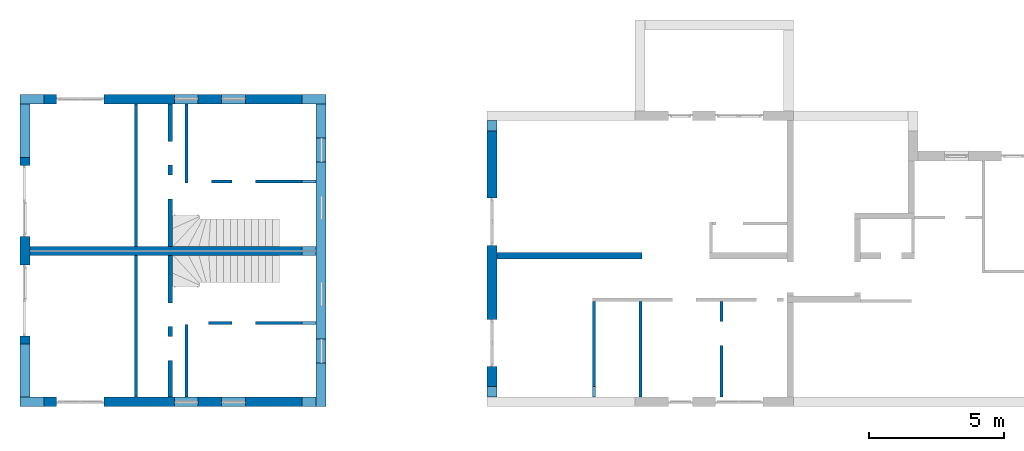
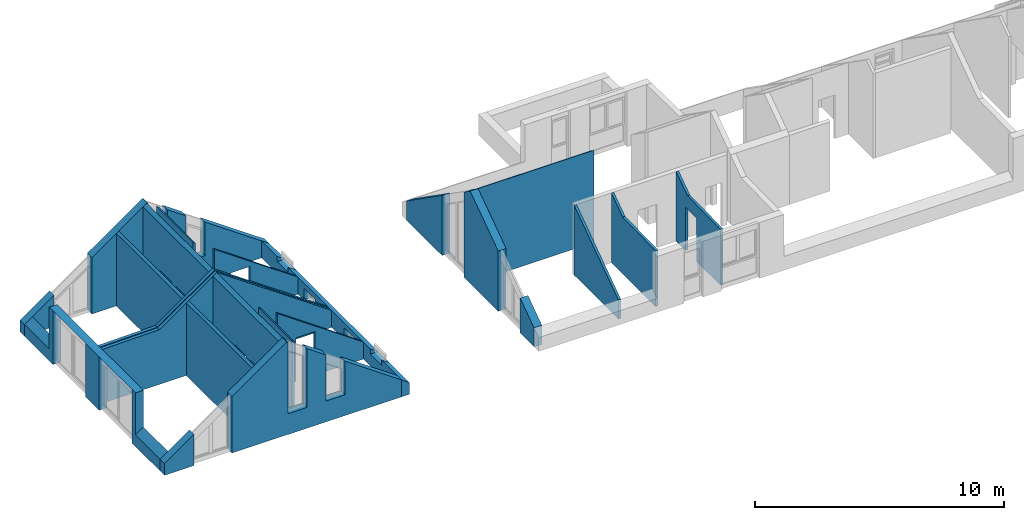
# One storey, part 1 of 23: 19 walls, 21 openings.
"""IFC2X3 building model written with IfcOpenShell, lengths in millimetres."""

from ifc_helpers import new_model, entity, si_unit, converted_unit, frame, frame_2d, origin, origin_with_axes, place, context, subcontext, project, spatial, polyline, rectangle, outline, extrude, clip, halfspace, bounded_halfspace, material, layer, layer_set, layer_usage, element, save


model = new_model("IFC2X3")

# Units and contexts
model_context = context("Model", 3, precision=1e-05, world=origin())
body_context = subcontext(model_context, "Body", "Model", "MODEL_VIEW")
ifc_project = project(units=[si_unit("LENGTHUNIT", "METRE", prefix="MILLI"), converted_unit("PLANEANGLEUNIT", "DEGREE", entity("IfcPlaneAngleMeasure", 0.0174532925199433), si_unit("PLANEANGLEUNIT", "RADIAN"), dimensions=[0, 0, 0, 0, 0, 0, 0]), si_unit("AREAUNIT", "SQUARE_METRE"), si_unit("VOLUMEUNIT", "CUBIC_METRE")], contexts=[model_context])

# Building, storey
building_placement = place(None, origin())
building = spatial("IfcBuilding", under=ifc_project, at=building_placement, Name="Gebäude", CompositionType="ELEMENT")
storey_placement = place(building_placement, frame((0.0, 0.0, 5580.0), z_axis=(0.0, 0.0, 1.0), x_axis=(1.0, 0.0, 0.0)))
storey = spatial("IfcBuildingStorey", under=building, at=storey_placement, Name="DG.- Grundriss", CompositionType="ELEMENT", Elevation=5580.0)

# Wall, openings
ifc_material_1 = material(Name="Poroton")
ifc_layer_1 = layer(ifc_material_1, 365.0000000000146)
ifc_layer_set_1 = layer_set([ifc_layer_1])
ifc_layer_usage_1 = layer_usage(ifc_layer_set_1, "AXIS2", "POSITIVE", 0.0)
wall_1_placement = place(storey_placement, frame((130992.7928067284, 125274.8877324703, 0.0), z_axis=(0.0, 0.0, 1.0), x_axis=(1.0, -2.749253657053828e-11, 0.0)))
wall_1 = element("IfcWallStandardCase", 1, at=wall_1_placement, inside=storey, material=ifc_layer_usage_1, Name="<Unnamed Element>", context=body_context, shape_type="Clipping", body=[
    clip(clip(extrude(rectangle(XDim=10999.99999999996, YDim=365.0000000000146, at=frame_2d((5499.999999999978, 182.5000000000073), x_axis=(1.0, 0.0))), origin_with_axes(), (0.0, 0.0, 1.0), 4558.929335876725), bounded_halfspace(frame((5682.499999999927, -3.022829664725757e-12, 4558.929335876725), z_axis=(-0.5735764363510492, -1.576907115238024e-11, -0.8191520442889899), x_axis=(0.8191520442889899, 4.656618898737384e-16, -0.573576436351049)), True, origin(), polyline([(5682.499999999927, -3.022829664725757e-12), (10999.99999999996, 0.0), (10999.99999998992, 365.0000000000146), (5682.499999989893, 365.0000000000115), (5682.499999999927, -3.022829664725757e-12)]))), bounded_halfspace(frame((-1.003477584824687e-08, 365.0000000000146, 580.0000000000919), z_axis=(0.5735764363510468, 1.576907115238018e-11, -0.8191520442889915), x_axis=(2.749253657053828e-11, -1.0, 0.0)), True, origin(), polyline([(-1.003477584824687e-08, 365.0000000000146), (0.0, 0.0), (5682.499999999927, -3.022829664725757e-12), (5682.499999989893, 365.0000000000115), (-1.003477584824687e-08, 365.0000000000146)]))),
])
opening_1_placement = place(wall_1_placement, frame((1364.999999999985, -7.494236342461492e-12, 0.0), z_axis=(0.0, 1.0, 0.0), x_axis=(0.0, 0.0, 1.0)))
element("IfcOpeningElement", 2, at=opening_1_placement, cuts=wall_1, Name="Fensteröffnung", ObjectType="Opening", context=body_context, shape_type="SweptSolid", body=[
    extrude(outline(polyline([(1535.783289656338, 0.0), (0.0, 0.0), (0.0, 1760.0), (2768.148556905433, 1760.0), (1535.783289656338, 0.0)])), origin_with_axes(), (0.0, 0.0, 1.0), 365.0000000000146),
])
opening_2_placement = place(wall_1_placement, frame((7489.999999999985, -3.477907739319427e-11, 1020.0), z_axis=(0.0, 1.0, 0.0), x_axis=(0.0, 0.0, 1.0)))
element("IfcOpeningElement", 3, at=opening_2_placement, cuts=wall_1, Name="Fensteröffnung", ObjectType="Opening", context=body_context, shape_type="SweptSolid", body=[
    extrude(outline(polyline([(2273.304210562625, 0.0), (0.0, 0.0), (0.0, 885.0), (1653.620539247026, 885.0), (2273.304210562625, 0.0)])), origin_with_axes(), (0.0, 0.0, 1.0), 365.0000000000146),
])
opening_3_placement = place(wall_1_placement, frame((5739.999999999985, -1.658918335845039e-11, 1020.0), z_axis=(0.0, 1.0, 0.0), x_axis=(0.0, 0.0, 1.0)))
element("IfcOpeningElement", 4, at=opening_3_placement, cuts=wall_1, Name="Fensteröffnung", ObjectType="Opening", context=body_context, shape_type="SweptSolid", body=[
    extrude(outline(polyline([(3498.667402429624, 0.0), (0.0, 0.0), (0.0, 885.0), (2878.983731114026, 885.0), (3498.667402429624, 0.0)])), origin_with_axes(), (0.0, 0.0, 1.0), 365.0),
])

ifc_material_2 = material(Name="Poroton")
ifc_layer_2 = layer(ifc_material_2, 365.0000000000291)
ifc_layer_set_2 = layer_set([ifc_layer_2])
ifc_layer_usage_2 = layer_usage(ifc_layer_set_2, "AXIS2", "POSITIVE", 0.0)
wall_2_placement = place(storey_placement, frame((142357.7928067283, 136889.8877324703, 0.0), z_axis=(0.0, 0.0, 1.0), x_axis=(-1.0, 0.0, 0.0)))
wall_2 = element("IfcWallStandardCase", 5, at=wall_2_placement, inside=storey, material=ifc_layer_usage_2, Name="<Unnamed Element>", context=body_context, shape_type="Clipping", body=[
    clip(clip(extrude(rectangle(XDim=11365.00000000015, YDim=365.0000000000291, at=frame_2d((5682.500000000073, 182.5000000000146), x_axis=(1.0, 0.0))), origin_with_axes(), (0.0, 0.0, 1.0), 4558.92933587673), bounded_halfspace(frame((5682.500000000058, 365.0000000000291, 4558.92933587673), z_axis=(0.5735764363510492, 0.0, -0.8191520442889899), x_axis=(-0.8191520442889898, 0.0, -0.5735764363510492)), True, origin(), polyline([(5682.500000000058, 365.0000000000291), (0.0, 365.0000000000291), (0.0, 0.0), (5682.500000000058, 0.0), (5682.500000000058, 365.0000000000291)]))), bounded_halfspace(frame((5682.500000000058, 365.0000000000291, 4558.92933587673), z_axis=(-0.5735764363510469, 0.0, -0.8191520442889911), x_axis=(0.0, -1.0, 0.0)), True, origin(), polyline([(5682.500000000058, 365.0000000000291), (5682.500000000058, 0.0), (11365.00000000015, 0.0), (11365.00000000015, 365.0000000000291), (5682.500000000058, 365.0000000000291)]))),
])
opening_4_placement = place(wall_2_placement, frame((8240.0, 0.0, 0.0), z_axis=(0.0, 1.0, 0.0), x_axis=(0.0, 0.0, 1.0)))
element("IfcOpeningElement", 6, at=opening_4_placement, cuts=wall_2, Name="Fensteröffnung", ObjectType="Opening", context=body_context, shape_type="SweptSolid", body=[
    extrude(outline(polyline([(0.0, 1760.0), (0.0, 0.0), (2768.148556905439, 0.0), (1535.783289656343, 1760.0), (0.0, 1760.0)])), origin_with_axes(), (0.0, 0.0, 1.0), 365.0000000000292),
])
opening_5_placement = place(wall_2_placement, frame((2990.0, 0.0, 1020.0), z_axis=(0.0, 1.0, 0.0), x_axis=(0.0, 0.0, 1.0)))
element("IfcOpeningElement", 7, at=opening_5_placement, cuts=wall_2, Name="Fensteröffnung", ObjectType="Opening", context=body_context, shape_type="SweptSolid", body=[
    extrude(outline(polyline([(0.0, 885.0), (0.0, 0.0), (1653.620539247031, 0.0), (2273.30421056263, 885.0), (0.0, 885.0)])), origin_with_axes(), (0.0, 0.0, 1.0), 365.0000000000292),
])
opening_6_placement = place(wall_2_placement, frame((4740.0, 0.0, 1020.0), z_axis=(0.0, 1.0, 0.0), x_axis=(0.0, 0.0, 1.0)))
element("IfcOpeningElement", 8, at=opening_6_placement, cuts=wall_2, Name="Fensteröffnung", ObjectType="Opening", context=body_context, shape_type="SweptSolid", body=[
    extrude(outline(polyline([(0.0, 885.0), (0.0, 0.0), (2878.983731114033, 0.0), (3498.667402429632, 885.0), (0.0, 885.0)])), origin_with_axes(), (0.0, 0.0, 1.0), 365.0000000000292),
])

ifc_material_3 = material(Name="Poroton")
ifc_layer_3 = layer(ifc_material_3, 365.0000000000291)
ifc_layer_set_3 = layer_set([ifc_layer_3])
ifc_layer_usage_3 = layer_usage(ifc_layer_set_3, "AXIS2", "POSITIVE", 0.0)
wall_3_placement = place(storey_placement, frame((142357.7928067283, 125274.8877321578, 0.0), z_axis=(0.0, 0.0, 1.0), x_axis=(0.0, 1.0, 0.0)))
wall_3 = element("IfcWallStandardCase", 9, at=wall_3_placement, inside=storey, material=ifc_layer_usage_3, Name="<Unnamed Element>", context=body_context, shape_type="Clipping", body=[
    clip(extrude(rectangle(XDim=11250.00000031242, YDim=365.0000000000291, at=frame_2d((5625.000000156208, 182.5000000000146), x_axis=(1.0, 0.0))), origin_with_axes(), (0.0, 0.0, 1.0), 835.5757514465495), halfspace(frame((11250.00000031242, 365.0000000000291, 835.5757514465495), z_axis=(3.642746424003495e-16, 0.5735764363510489, -0.81915204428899), x_axis=(-1.0, 0.0, -4.850638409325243e-16)), True)),
])
opening_7_placement = place(wall_3_placement, frame((3750.0, 0.0, 0.0), z_axis=(0.0, 1.0, 0.0), x_axis=(0.0, 0.0, 1.0)))
element("IfcOpeningElement", 10, at=opening_7_placement, cuts=wall_3, Name="Fensteröffnung", ObjectType="Opening", context=body_context, shape_type="SweptSolid", body=[
    extrude(rectangle(XDim=579.99999999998, YDim=885.0, at=frame_2d((289.99999999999, 442.5), x_axis=(1.0, 0.0))), origin_with_axes(), (0.0, 0.0, 1.0), 365.0000000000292),
])
opening_8_placement = place(wall_3_placement, frame((6955.000000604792, 0.0, 0.0), z_axis=(0.0, 1.0, 0.0), x_axis=(0.0, 0.0, 1.0)))
element("IfcOpeningElement", 11, at=opening_8_placement, cuts=wall_3, Name="Fensteröffnung", ObjectType="Opening", context=body_context, shape_type="SweptSolid", body=[
    extrude(rectangle(XDim=579.9999999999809, YDim=885.0, at=frame_2d((289.9999999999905, 442.5), x_axis=(1.0, 0.0))), origin_with_axes(), (0.0, 0.0, 1.0), 365.0000000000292),
])
opening_9_placement = place(wall_3_placement, frame((9105.000000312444, 0.0, 579.9999999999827), z_axis=(0.0, 1.0, 0.0), x_axis=(0.0, 0.0, 1.0)))
element("IfcOpeningElement", 12, at=opening_9_placement, cuts=wall_3, Name="Fensteröffnung", ObjectType="Opening", context=body_context, shape_type="SweptSolid", body=[
    extrude(rectangle(XDim=440.0000000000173, YDim=885.0, at=frame_2d((220.0000000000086, 442.5), x_axis=(1.0, 0.0))), origin_with_axes(), (0.0, 0.0, 1.0), 365.0000000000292),
])
opening_10_placement = place(wall_3_placement, frame((1625.0, 0.0, 579.9999999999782), z_axis=(0.0, 1.0, 0.0), x_axis=(0.0, 0.0, 1.0)))
element("IfcOpeningElement", 13, at=opening_10_placement, cuts=wall_3, Name="Fensteröffnung", ObjectType="Opening", context=body_context, shape_type="SweptSolid", body=[
    extrude(rectangle(XDim=440.0000000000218, YDim=885.0, at=frame_2d((220.0000000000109, 442.5), x_axis=(1.0, 0.0))), origin_with_axes(), (0.0, 0.0, 1.0), 365.0000000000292),
])

ifc_material_4 = material(Name="Poroton")
ifc_layer_4 = layer(ifc_material_4, 365.0)
ifc_layer_set_4 = layer_set([ifc_layer_4])
ifc_layer_usage_4 = layer_usage(ifc_layer_set_4, "AXIS2", "POSITIVE", 0.0)
wall_4_placement = place(storey_placement, frame((148357.7928067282, 135909.8877324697, 0.0), z_axis=(0.0, 0.0, 1.0), x_axis=(1.70032115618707e-14, -1.0, 0.0)))
wall_4 = element("IfcWallStandardCase", 14, at=wall_4_placement, inside=storey, material=ifc_layer_usage_4, Name="<Unnamed Element>", context=body_context, shape_type="Clipping", body=[
    clip(clip(extrude(rectangle(XDim=10269.99999999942, YDim=365.0, at=frame_2d((5134.999999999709, 182.5), x_axis=(1.0, 0.0))), origin_with_axes(), (0.0, 0.0, 1.0), 4531.141460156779), bounded_halfspace(frame((6.206172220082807e-12, 365.0, 935.5757514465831), z_axis=(0.5735764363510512, -1.115129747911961e-14, -0.8191520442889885), x_axis=(-1.70032115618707e-14, -1.0, 0.0)), True, origin(), polyline([(6.206172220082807e-12, 365.0), (0.0, 0.0), (5134.99999999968, 4.911384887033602e-25), (5135.000000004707, 365.0), (6.206172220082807e-12, 365.0)]))), bounded_halfspace(frame((10270.00000000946, 365.0, 935.5757514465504), z_axis=(-0.5735764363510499, 1.578219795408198e-11, -0.8191520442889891), x_axis=(-0.819152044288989, 1.369778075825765e-26, 0.5735764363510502)), True, origin(), polyline([(10270.00000000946, 365.0), (5135.000000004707, 365.0), (5134.99999999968, 4.911384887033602e-25), (10269.99999999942, 0.0), (10270.00000000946, 365.0)]))),
])
opening_11_placement = place(wall_4_placement, frame((2874.999999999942, -2.54658516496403e-11, 0.0), z_axis=(0.0, 1.0, 0.0), x_axis=(0.0, 0.0, 1.0)))
element("IfcOpeningElement", 15, at=opening_11_placement, cuts=wall_4, Name="Fensteröffnung", ObjectType="Opening", context=body_context, shape_type="SweptSolid", body=[
    extrude(outline(polyline([(2948.672423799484, 0.0), (0.0, 0.0), (0.0, 1760.0), (4181.037691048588, 1760.0), (2948.672423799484, 0.0)])), origin_with_axes(), (0.0, 0.0, 1.0), 365.0),
])
opening_12_placement = place(wall_4_placement, frame((7384.999999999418, -9.851646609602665e-11, 0.0), z_axis=(0.0, 1.0, 0.0), x_axis=(0.0, 0.0, 1.0)))
element("IfcOpeningElement", 16, at=opening_12_placement, cuts=wall_4, Name="Fensteröffnung", ObjectType="Opening", context=body_context, shape_type="SweptSolid", body=[
    extrude(outline(polyline([(2955.674499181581, 0.0), (0.0, 0.0), (0.0, 1760.0), (1723.309231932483, 1760.0), (2955.674499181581, 0.0)])), origin_with_axes(), (0.0, 0.0, 1.0), 365.0),
])

# Wall
ifc_material_5 = material(Name="Hlz")
ifc_layer_5 = layer(ifc_material_5, 150.0)
ifc_layer_set_5 = layer_set([ifc_layer_5])
ifc_layer_usage_5 = layer_usage(ifc_layer_set_5, "AXIS2", "POSITIVE", 0.0)
wall_5_placement = place(storey_placement, frame((141992.7928067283, 131049.8877324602, 0.0), z_axis=(0.0, 0.0, 1.0), x_axis=(-1.0, 0.0, 0.0)))
element("IfcWallStandardCase", 17, at=wall_5_placement, inside=storey, material=ifc_layer_usage_5, Name="<Unnamed Element>", context=body_context, shape_type="Clipping", body=[
    clip(clip(clip(extrude(rectangle(XDim=10634.99999999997, YDim=150.0, at=frame_2d((5317.499999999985, 75.0), x_axis=(1.0, 0.0))), origin_with_axes(), (0.0, 0.0, 1.0), 4558.929335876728), bounded_halfspace(frame((0.0, 0.0, 835.5757514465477), z_axis=(0.573576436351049, 0.0, -0.8191520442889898), x_axis=(0.8191520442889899, 0.0, 0.573576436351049)), True, origin(), polyline([(0.0, 0.0), (5317.500000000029, 0.0), (5317.500000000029, 150.0), (0.0, 150.0), (0.0, 0.0)]))), bounded_halfspace(frame((7989.868757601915, 150.0, 2687.716586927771), z_axis=(-0.5735764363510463, 0.0, -0.8191520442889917), x_axis=(-0.8191520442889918, 0.0, 0.5735764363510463)), True, origin(), polyline([(7989.868757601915, 150.0), (5317.500000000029, 150.0), (5317.500000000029, 0.0), (7989.868757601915, 0.0), (7989.868757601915, 150.0)]))), bounded_halfspace(frame((10634.99999999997, 150.0, 2641.545649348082), z_axis=(-0.01745240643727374, 0.0, -0.9998476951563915), x_axis=(-0.9998476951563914, 0.0, 0.01745240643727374)), True, origin(), polyline([(10634.99999999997, 150.0), (7989.868757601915, 150.0), (7989.868757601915, 0.0), (10634.99999999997, 0.0), (10634.99999999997, 150.0)]))),
])

# Wall, openings
ifc_material_6 = material(Name="Poroton")
ifc_layer_6 = layer(ifc_material_6, 365.0)
ifc_layer_set_6 = layer_set([ifc_layer_6])
ifc_layer_usage_6 = layer_usage(ifc_layer_set_6, "AXIS2", "POSITIVE", 0.0)
wall_6_placement = place(storey_placement, frame((130992.7928067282, 136524.8877324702, 0.0), z_axis=(0.0, 0.0, 1.0), x_axis=(1.336877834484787e-14, -1.0, 0.0)))
wall_6 = element("IfcWallStandardCase", 18, at=wall_6_placement, inside=storey, material=ifc_layer_usage_6, Name="<Unnamed Element>", context=body_context, shape_type="Clipping", body=[
    clip(clip(clip(extrude(rectangle(XDim=10884.99999999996, YDim=365.0, at=frame_2d((5442.499999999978, 182.5), x_axis=(1.0, 0.0))), origin_with_axes(), (0.0, 0.0, 1.0), 2641.54564934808), bounded_halfspace(frame((4.879604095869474e-12, 365.0, 835.5757514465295), z_axis=(7.329234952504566e-15, 0.5735764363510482, -0.8191520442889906), x_axis=(-1.095106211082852e-14, -0.81915204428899, -0.5735764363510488)), True, origin(), polyline([(4.879604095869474e-12, 365.0), (0.0, 0.0), (1984.987487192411, 2.566972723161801e-12), (1984.987487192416, 365.0000000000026), (4.879604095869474e-12, 365.0)]))), bounded_halfspace(frame((8924.99999999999, 364.9999999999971, 835.5757514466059), z_axis=(7.320750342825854e-15, 0.5735764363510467, -0.8191520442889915), x_axis=(-1.095106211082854e-14, -0.8191520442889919, -0.573576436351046)), True, origin(), polyline([(8924.99999999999, 364.9999999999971), (8924.999999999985, -2.901024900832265e-12), (10884.99999999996, 0.0), (10885.00000001, 365.0), (8924.99999999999, 364.9999999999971)]))), bounded_halfspace(frame((1984.987487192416, 365.0000000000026, 2641.54564934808), z_axis=(1.372830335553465e-17, 0.01745240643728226, -0.9998476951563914), x_axis=(-1.336674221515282e-14, -0.9998476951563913, -0.01745240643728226)), True, origin(), polyline([(1984.987487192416, 365.0000000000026), (1984.987487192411, 2.566972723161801e-12), (8924.999999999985, -2.901024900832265e-12), (8924.99999999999, 364.9999999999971), (1984.987487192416, 365.0000000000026)]))),
])
opening_13_placement = place(wall_6_placement, frame((2284.987487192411, -4.147113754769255e-12, 0.0), z_axis=(0.0, 1.0, 0.0), x_axis=(0.0, 0.0, 1.0)))
element("IfcOpeningElement", 19, at=opening_13_placement, cuts=wall_6, Name="Fensteröffnung", ObjectType="Opening", context=body_context, shape_type="SweptSolid", body=[
    extrude(rectangle(XDim=2635.174550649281, YDim=2635.0, at=frame_2d((1317.58727532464, 1317.5), x_axis=(1.0, 0.0))), origin_with_axes(), (0.0, 0.0, 1.0), 365.0000000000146),
])
opening_14_placement = place(wall_6_placement, frame((5989.999999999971, 1.455191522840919e-13, 0.0), z_axis=(0.0, 1.0, 0.0), x_axis=(0.0, 0.0, 1.0)))
element("IfcOpeningElement", 20, at=opening_14_placement, cuts=wall_6, Name="Fensteröffnung", ObjectType="Opening", context=body_context, shape_type="SweptSolid", body=[
    extrude(rectangle(XDim=2635.174550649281, YDim=2635.0, at=frame_2d((1317.58727532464, 1317.5), x_axis=(1.0, 0.0))), origin_with_axes(), (0.0, 0.0, 1.0), 364.9999999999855),
])

# Wall
ifc_material_7 = material(Name="Hlz")
ifc_layer_7 = layer(ifc_material_7, 150.0)
ifc_layer_set_7 = layer_set([ifc_layer_7])
ifc_layer_usage_7 = layer_usage(ifc_layer_set_7, "AXIS2", "POSITIVE", 0.0)
wall_7_placement = place(storey_placement, frame((141992.7928067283, 131239.8877324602, 0.0), z_axis=(0.0, 0.0, 1.0), x_axis=(-1.0, 0.0, 0.0)))
element("IfcWallStandardCase", 21, at=wall_7_placement, inside=storey, material=ifc_layer_usage_7, Name="<Unnamed Element>", context=body_context, shape_type="Clipping", body=[
    clip(clip(clip(extrude(rectangle(XDim=10634.99999999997, YDim=150.0, at=frame_2d((5317.499999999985, 75.0), x_axis=(1.0, 0.0))), origin_with_axes(), (0.0, 0.0, 1.0), 4558.929335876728), bounded_halfspace(frame((0.0, 0.0, 835.5757514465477), z_axis=(0.573576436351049, 0.0, -0.8191520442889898), x_axis=(0.8191520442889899, 0.0, 0.573576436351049)), True, origin(), polyline([(0.0, 0.0), (5317.500000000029, 0.0), (5317.500000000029, 150.0), (0.0, 150.0), (0.0, 0.0)]))), bounded_halfspace(frame((7989.868757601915, 150.0, 2687.716586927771), z_axis=(-0.5735764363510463, 0.0, -0.8191520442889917), x_axis=(-0.8191520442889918, 0.0, 0.5735764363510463)), True, origin(), polyline([(7989.868757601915, 150.0), (5317.500000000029, 150.0), (5317.500000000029, 0.0), (7989.868757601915, 0.0), (7989.868757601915, 150.0)]))), bounded_halfspace(frame((10634.99999999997, 150.0, 2641.545649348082), z_axis=(-0.01745240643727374, 0.0, -0.9998476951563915), x_axis=(-0.9998476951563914, 0.0, 0.01745240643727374)), True, origin(), polyline([(10634.99999999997, 150.0), (7989.868757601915, 150.0), (7989.868757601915, 0.0), (10634.99999999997, 0.0), (10634.99999999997, 150.0)]))),
])

# Wall, openings
ifc_material_8 = material(Name="Hlz")
ifc_layer_8 = layer(ifc_material_8, 175.0)
ifc_layer_set_8 = layer_set([ifc_layer_8])
ifc_layer_usage_8 = layer_usage(ifc_layer_set_8, "AXIS2", "POSITIVE", 0.0)
wall_8_placement = place(storey_placement, frame((136492.792808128, 136524.8877324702, 0.0), z_axis=(0.0, 0.0, 1.0), x_axis=(0.0, -1.0, 0.0)))
wall_8 = element("IfcWallStandardCase", 22, at=wall_8_placement, inside=storey, material=ifc_layer_usage_8, Name="<Unnamed Element>", context=body_context, shape_type="Clipping", body=[
    clip(extrude(rectangle(XDim=5285.000000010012, YDim=175.0, at=frame_2d((2642.500000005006, 87.5), x_axis=(1.0, 0.0))), origin_with_axes(), (0.0, 0.0, 1.0), 4553.677780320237), halfspace(frame((0.0, 0.0, 4431.141461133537), z_axis=(-2.819354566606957e-16, 0.5735764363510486, -0.8191520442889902), x_axis=(1.0, 0.0, -3.441796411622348e-16)), True)),
])
opening_15_placement = place(wall_8_placement, frame((2634.986601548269, 0.0, 0.0), z_axis=(0.0, 1.0, 0.0), x_axis=(0.0, 0.0, 1.0)))
element("IfcOpeningElement", 23, at=opening_15_placement, cuts=wall_8, Name="Türöffnung", ObjectType="Opening", context=body_context, shape_type="SweptSolid", body=[
    extrude(rectangle(XDim=2135.0, YDim=885.0, at=frame_2d((1067.5, 442.5), x_axis=(1.0, 0.0))), origin_with_axes(), (0.0, 0.0, 1.0), 175.0),
])
opening_16_placement = place(wall_8_placement, frame((1384.986601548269, 0.0, 0.0), z_axis=(0.0, 1.0, 0.0), x_axis=(0.0, 0.0, 1.0)))
element("IfcOpeningElement", 24, at=opening_16_placement, cuts=wall_8, Name="Türöffnung", ObjectType="Opening", context=body_context, shape_type="SweptSolid", body=[
    extrude(rectangle(XDim=2135.0, YDim=885.0, at=frame_2d((1067.5, 442.5), x_axis=(1.0, 0.0))), origin_with_axes(), (0.0, 0.0, 1.0), 175.0),
])

ifc_material_9 = material(Name="Hlz")
ifc_layer_9 = layer(ifc_material_9, 175.0)
ifc_layer_set_9 = layer_set([ifc_layer_9])
ifc_layer_usage_9 = layer_usage(ifc_layer_set_9, "AXIS2", "POSITIVE", 0.0)
wall_9_placement = place(storey_placement, frame((136492.792808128, 130899.8877324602, 0.0), z_axis=(0.0, 0.0, 1.0), x_axis=(0.0, -1.0, 0.0)))
wall_9 = element("IfcWallStandardCase", 25, at=wall_9_placement, inside=storey, material=ifc_layer_usage_9, Name="<Unnamed Element>", context=body_context, shape_type="Clipping", body=[
    clip(extrude(rectangle(XDim=5260.000000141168, YDim=175.0, at=frame_2d((2630.000000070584, 87.5), x_axis=(1.0, 0.0))), origin_with_axes(), (0.0, 0.0, 1.0), 4553.677780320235), halfspace(frame((0.0, 0.0, 4431.141461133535), z_axis=(-4.245085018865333e-16, 0.5735764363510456, -0.8191520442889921), x_axis=(1.0, 0.0, -3.458154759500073e-16)), True)),
])
opening_17_placement = place(wall_9_placement, frame((3015.013398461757, 0.0, 0.0), z_axis=(0.0, 1.0, 0.0), x_axis=(0.0, 0.0, 1.0)))
element("IfcOpeningElement", 26, at=opening_17_placement, cuts=wall_9, Name="Türöffnung", ObjectType="Opening", context=body_context, shape_type="SweptSolid", body=[
    extrude(rectangle(XDim=2135.0, YDim=885.0, at=frame_2d((1067.5, 442.5), x_axis=(1.0, 0.0))), origin_with_axes(), (0.0, 0.0, 1.0), 175.0),
])
opening_18_placement = place(wall_9_placement, frame((1765.013398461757, 0.0, 0.0), z_axis=(0.0, 1.0, 0.0), x_axis=(0.0, 0.0, 1.0)))
element("IfcOpeningElement", 27, at=opening_18_placement, cuts=wall_9, Name="Türöffnung", ObjectType="Opening", context=body_context, shape_type="SweptSolid", body=[
    extrude(rectangle(XDim=2135.0, YDim=885.0, at=frame_2d((1067.5, 442.5), x_axis=(1.0, 0.0))), origin_with_axes(), (0.0, 0.0, 1.0), 175.0),
])

# Wall, opening
ifc_material_10 = material(Name="Hlz")
ifc_layer_10 = layer(ifc_material_10, 115.0)
ifc_layer_set_10 = layer_set([ifc_layer_10])
ifc_layer_usage_10 = layer_usage(ifc_layer_set_10, "AXIS2", "POSITIVE", 0.0)
wall_10_placement = place(storey_placement, frame((141992.7920327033, 133702.3910193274, 0.0), z_axis=(0.0, 0.0, 1.0), x_axis=(-1.0, 0.0, 0.0)))
wall_10 = element("IfcWallStandardCase", 28, at=wall_10_placement, inside=storey, material=ifc_layer_usage_10, Name="<Unnamed Element>", context=body_context, shape_type="Clipping", body=[
    clip(extrude(rectangle(XDim=3874.708303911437, YDim=115.0, at=frame_2d((1937.354151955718, 57.5), x_axis=(1.0, 0.0))), origin_with_axes(), (0.0, 0.0, 1.0), 3548.676256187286), halfspace(frame((0.0, 0.0, 835.5762934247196), z_axis=(0.5735764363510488, 0.0, -0.81915204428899), x_axis=(0.81915204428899, 0.0, 0.5735764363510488)), True)),
])
opening_19_placement = place(wall_10_placement, frame((2239.998451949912, 0.0, 0.0), z_axis=(0.0, 1.0, 0.0), x_axis=(0.0, 0.0, 1.0)))
element("IfcOpeningElement", 29, at=opening_19_placement, cuts=wall_10, Name="Türöffnung", ObjectType="Opening", context=body_context, shape_type="SweptSolid", body=[
    extrude(rectangle(XDim=2135.0, YDim=885.0, at=frame_2d((1067.5, 442.5), x_axis=(1.0, 0.0))), origin_with_axes(), (0.0, 0.0, 1.0), 115.0),
])

ifc_material_11 = material(Name="Hlz")
ifc_layer_11 = layer(ifc_material_11, 115.0)
ifc_layer_set_11 = layer_set([ifc_layer_11])
ifc_layer_usage_11 = layer_usage(ifc_layer_set_11, "AXIS2", "POSITIVE", 0.0)
wall_11_placement = place(storey_placement, frame((138003.0837287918, 128337.3967591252, 0.0), z_axis=(0.0, 0.0, 1.0), x_axis=(0.9999999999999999, 0.0, 0.0)))
wall_11 = element("IfcWallStandardCase", 30, at=wall_11_placement, inside=storey, material=ifc_layer_usage_11, Name="<Unnamed Element>", context=body_context, shape_type="Clipping", body=[
    clip(extrude(rectangle(XDim=3989.708303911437, YDim=115.0, at=frame_2d((1994.854151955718, 57.49999999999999), x_axis=(1.0, 0.0))), origin_with_axes(), (0.0, 0.0, 1.0), 3629.2001230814), halfspace(frame((0.0, 0.0, 3629.2001230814), z_axis=(-0.5735764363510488, 3.282341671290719e-15, -0.81915204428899), x_axis=(0.8191520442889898, 0.0, -0.573576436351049)), True)),
])
opening_20_placement = place(wall_11_placement, frame((864.7098519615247, 0.0, 0.0), z_axis=(0.0, 1.0, 0.0), x_axis=(0.0, 0.0, 1.0)))
element("IfcOpeningElement", 31, at=opening_20_placement, cuts=wall_11, Name="Türöffnung", ObjectType="Opening", context=body_context, shape_type="SweptSolid", body=[
    extrude(rectangle(XDim=2135.0, YDim=885.0, at=frame_2d((1067.5, 442.5), x_axis=(1.0, 0.0))), origin_with_axes(), (0.0, 0.0, 1.0), 115.0),
])

# Wall
ifc_material_12 = material(Name="Hlz")
ifc_layer_12 = layer(ifc_material_12, 240.0)
ifc_layer_set_12 = layer_set([ifc_layer_12])
ifc_layer_usage_12 = layer_usage(ifc_layer_set_12, "AXIS2", "POSITIVE", 0.0)
wall_12_placement = place(storey_placement, frame((148722.7928067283, 130774.8877324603, 0.0), z_axis=(0.0, 0.0, 1.0), x_axis=(1.0, 0.0, 0.0)))
element("IfcWallStandardCase", 32, at=wall_12_placement, inside=storey, material=ifc_layer_usage_12, Name="<Unnamed Element>", context=body_context, shape_type="Clipping", body=[
    clip(extrude(rectangle(XDim=5389.973605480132, YDim=240.0, at=frame_2d((2694.986802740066, 120.0), x_axis=(1.0, 0.0))), origin_with_axes(), (0.0, 0.0, 1.0), 4531.141460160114), halfspace(frame((0.0, 240.0, 4363.09165098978), z_axis=(-4.146668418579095e-16, -0.5735764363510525, -0.8191520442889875), x_axis=(0.0, -0.819152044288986, 0.5735764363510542)), True)),
])

# Wall, opening
ifc_material_13 = material(Name="Hlz")
ifc_layer_13 = layer(ifc_material_13, 115.0)
ifc_layer_set_13 = layer_set([ifc_layer_13])
ifc_layer_usage_13 = layer_usage(ifc_layer_set_13, "AXIS2", "POSITIVE", 0.0)
wall_13_placement = place(storey_placement, frame((157117.7668955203, 125639.8877322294, 0.0), z_axis=(0.0, 0.0, 1.0), x_axis=(0.0, 1.0, 0.0)))
wall_13 = element("IfcWallStandardCase", 33, at=wall_13_placement, inside=storey, material=ifc_layer_usage_13, Name="<Unnamed Element>", context=body_context, shape_type="Clipping", body=[
    clip(clip(extrude(rectangle(XDim=3555.000007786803, YDim=115.0, at=frame_2d((1777.500003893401, 57.5), x_axis=(1.0, 0.0))), origin_with_axes(), (0.0, 0.0, 1.0), 3424.813555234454), bounded_halfspace(frame((3555.000007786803, 115.0, 3424.81355523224), z_axis=(0.5735764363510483, -1.576332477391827e-11, -0.8191520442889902), x_axis=(-0.8191520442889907, 0.0, -0.5735764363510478)), True, origin(), polyline([(3555.000007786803, 115.0), (2645.13124239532, 115.0), (2645.131242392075, 0.0), (3555.000007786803, 0.0), (3555.000007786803, 115.0)]))), bounded_halfspace(frame((0.0, 0.0, 2741.545649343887), z_axis=(0.01745240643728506, 1.231881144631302e-14, -0.9998476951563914), x_axis=(0.9998476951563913, 0.0, 0.01745240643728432)), True, origin(), polyline([(0.0, 0.0), (2645.131242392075, 0.0), (2645.13124239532, 115.0), (3.157765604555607e-09, 115.0), (0.0, 0.0)]))),
])
opening_21_placement = place(wall_13_placement, frame((1920.000339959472, 0.0, 0.0), z_axis=(0.0, 1.0, 0.0), x_axis=(0.0, 0.0, 1.0)))
element("IfcOpeningElement", 34, at=opening_21_placement, cuts=wall_13, Name="Türöffnung", ObjectType="Opening", context=body_context, shape_type="SweptSolid", body=[
    extrude(rectangle(XDim=2135.0, YDim=885.0, at=frame_2d((1067.5, 442.5), x_axis=(1.0, 0.0))), origin_with_axes(), (0.0, 0.0, 1.0), 115.0),
])

# Walls
ifc_material_14 = material(Name="Hlz")
ifc_layer_14 = layer(ifc_material_14, 115.0)
ifc_layer_set_14 = layer_set([ifc_layer_14])
ifc_layer_usage_14 = layer_usage(ifc_layer_set_14, "AXIS2", "POSITIVE", 0.0)
wall_14_placement = place(storey_placement, frame((152383.054144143, 125639.8877323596, 0.0), z_axis=(0.0, 0.0, 1.0), x_axis=(0.0, 0.9999999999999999, 0.0)))
element("IfcWallStandardCase", 35, at=wall_14_placement, inside=storey, material=ifc_layer_usage_14, Name="<Unnamed Element>", context=body_context, shape_type="Clipping", body=[
    clip(extrude(rectangle(XDim=3555.000120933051, YDim=115.0, at=frame_2d((1777.500060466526, 57.49999999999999), x_axis=(1.0, 0.0))), origin_with_axes(), (0.0, 0.0, 1.0), 3424.813634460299), halfspace(frame((0.0, 0.0, 935.5757514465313), z_axis=(0.5735764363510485, -1.576852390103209e-11, -0.8191520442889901), x_axis=(0.8191520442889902, 0.0, 0.5735764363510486)), True)),
])
ifc_material_15 = material(Name="Hlz")
ifc_layer_15 = layer(ifc_material_15, 115.0)
ifc_layer_set_15 = layer_set([ifc_layer_15])
ifc_layer_usage_15 = layer_usage(ifc_layer_set_15, "AXIS2", "POSITIVE", 0.0)
wall_15_placement = place(storey_placement, frame((154112.7668643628, 125639.8877323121, 0.0), z_axis=(0.0, 0.0, 1.0), x_axis=(0.0, 0.9999999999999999, 0.0)))
element("IfcWallStandardCase", 36, at=wall_15_placement, inside=storey, material=ifc_layer_usage_15, Name="<Unnamed Element>", context=body_context, shape_type="Clipping", body=[
    clip(clip(extrude(rectangle(XDim=3555.000120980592, YDim=115.0, at=frame_2d((1777.500060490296, 57.49999999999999), x_axis=(1.0, 0.0))), origin_with_axes(), (0.0, 0.0, 1.0), 3424.813634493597), bounded_halfspace(frame((3555.000120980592, 115.0, 3424.813634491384), z_axis=(0.5735764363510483, -1.576929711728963e-11, -0.8191520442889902), x_axis=(-0.8191520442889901, 0.0, -0.5735764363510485)), True, origin(), polyline([(3555.000120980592, 115.0), (2645.13124239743, 115.0), (2645.131242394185, 0.0), (3555.000120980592, 0.0), (3555.000120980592, 115.0)]))), bounded_halfspace(frame((0.0, 0.0, 2741.545649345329), z_axis=(0.01745240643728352, 1.231881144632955e-14, -0.9998476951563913), x_axis=(0.9998476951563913, 0.0, 0.01745240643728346)), True, origin(), polyline([(0.0, 0.0), (2645.131242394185, 0.0), (2645.13124239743, 115.0), (3.157765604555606e-09, 115.0), (0.0, 0.0)]))),
])
ifc_material_16 = material(Name="Hlz")
ifc_layer_16 = layer(ifc_material_16, 115.0)
ifc_layer_set_16 = layer_set([ifc_layer_16])
ifc_layer_usage_16 = layer_usage(ifc_layer_set_16, "AXIS2", "POSITIVE", 0.0)
wall_16_placement = place(storey_placement, frame((137232.7909271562, 133587.3915705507, 0.0), z_axis=(0.0, 0.0, 1.0), x_axis=(0.0, 1.0, 0.0)))
element("IfcWallStandardCase", 37, at=wall_16_placement, inside=storey, material=ifc_layer_usage_16, Name="<Unnamed Element>", context=body_context, shape_type="Clipping", body=[
    clip(extrude(rectangle(XDim=2937.496078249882, YDim=115.0, at=frame_2d((1468.748039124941, 57.5), x_axis=(1.0, 0.0))), origin_with_axes(), (0.0, 0.0, 1.0), 4249.088816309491), halfspace(frame((0.0, 0.0, 4168.564949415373), z_axis=(2.536222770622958e-16, 0.5735764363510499, -0.8191520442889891), x_axis=(1.0, 0.0, 6.192312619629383e-16)), True)),
])
ifc_material_17 = material(Name="Hlz")
ifc_layer_17 = layer(ifc_material_17, 115.0)
ifc_layer_set_17 = layer_set([ifc_layer_17])
ifc_layer_usage_17 = layer_usage(ifc_layer_set_17, "AXIS2", "POSITIVE", 0.0)
wall_17_placement = place(storey_placement, frame((137232.7909271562, 125639.8877322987, 0.0), z_axis=(0.0, 0.0, 1.0), x_axis=(0.0, 1.0, 0.0)))
element("IfcWallStandardCase", 38, at=wall_17_placement, inside=storey, material=ifc_layer_usage_17, Name="<Unnamed Element>", context=body_context, shape_type="Clipping", body=[
    clip(extrude(rectangle(XDim=2697.509578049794, YDim=115.0, at=frame_2d((1348.754789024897, 57.5), x_axis=(1.0, 0.0))), origin_with_axes(), (0.0, 0.0, 1.0), 4249.088816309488), halfspace(frame((0.0, 0.0, 4168.564949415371), z_axis=(0.0, 0.5735764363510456, -0.8191520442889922), x_axis=(1.0, 0.0, 0.0)), True)),
])
ifc_material_18 = material(Name="Hlz")
ifc_layer_18 = layer(ifc_material_18, 115.0)
ifc_layer_set_18 = layer_set([ifc_layer_18])
ifc_layer_usage_18 = layer_usage(ifc_layer_set_18, "AXIS2", "POSITIVE", 0.0)
wall_18_placement = place(storey_placement, frame((135367.792808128, 131239.8877324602, 0.0), z_axis=(0.0, 0.0, 1.0), x_axis=(0.0, 1.0, 0.0)))
element("IfcWallStandardCase", 39, at=wall_18_placement, inside=storey, material=ifc_layer_usage_18, Name="<Unnamed Element>", context=body_context, shape_type="Clipping", body=[
    clip(extrude(rectangle(XDim=5285.000000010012, YDim=115.0, at=frame_2d((2642.500000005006, 57.5), x_axis=(1.0, 0.0))), origin_with_axes(), (0.0, 0.0, 1.0), 3643.407980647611), halfspace(frame((0.0, 0.0, 3643.407980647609), z_axis=(2.819354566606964e-16, -0.5735764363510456, -0.8191520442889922), x_axis=(1.0, 0.0, 3.441796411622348e-16)), True)),
])
ifc_material_19 = material(Name="Hlz")
ifc_layer_19 = layer(ifc_material_19, 115.0)
ifc_layer_set_19 = layer_set([ifc_layer_19])
ifc_layer_usage_19 = layer_usage(ifc_layer_set_19, "AXIS2", "POSITIVE", 0.0)
wall_19_placement = place(storey_placement, frame((135367.792808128, 125639.88773235, 0.0), z_axis=(0.0, 0.0, 1.0), x_axis=(0.0, 1.0, 0.0)))
element("IfcWallStandardCase", 40, at=wall_19_placement, inside=storey, material=ifc_layer_usage_19, Name="<Unnamed Element>", context=body_context, shape_type="Clipping", body=[
    clip(extrude(rectangle(XDim=5260.000000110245, YDim=115.0, at=frame_2d((2630.000000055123, 57.5), x_axis=(1.0, 0.0))), origin_with_axes(), (0.0, 0.0, 1.0), 3643.407980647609), halfspace(frame((0.0, 0.0, 3643.407980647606), z_axis=(5.665509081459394e-16, -0.5735764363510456, -0.8191520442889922), x_axis=(1.0, 0.0, 6.916309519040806e-16)), True)),
])

save(model, "model.ifc")
